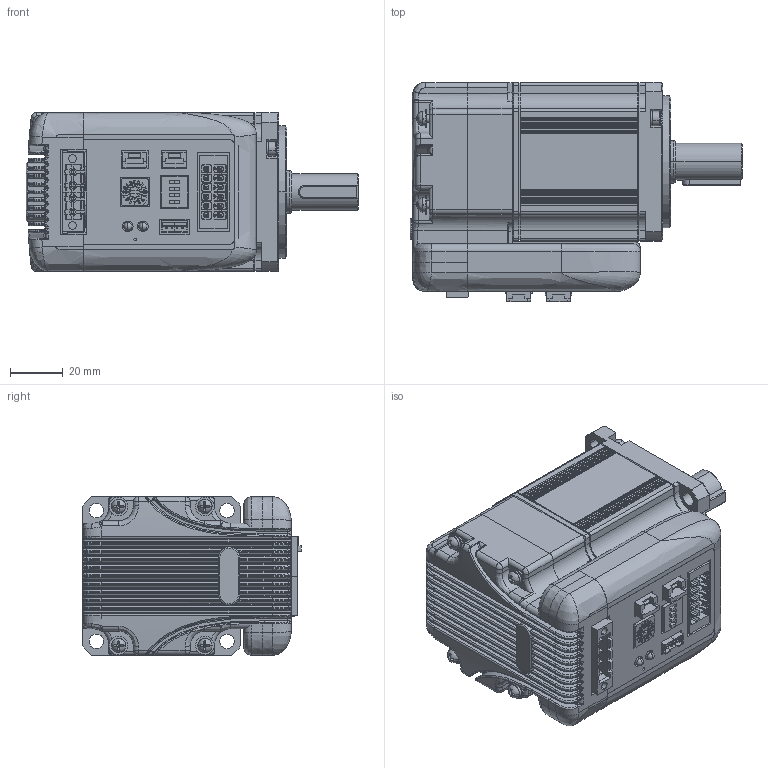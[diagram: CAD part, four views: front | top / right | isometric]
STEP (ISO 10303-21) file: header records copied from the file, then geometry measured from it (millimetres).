
FILE_DESCRIPTION((''),'2;1');
FILE_NAME('ISV2_6020V48C_B_ALL_ASM','2020-12-09T',('sunjun'),(''),'PRO/ENGINEER BY PARAMETRIC TECHNOLOGY CORPORATION, 2008090','PRO/ENGINEER BY PARAMETRIC TECHNOLOGY CORPORATION, 2008090','');
FILE_SCHEMA(('CONFIG_CONTROL_DESIGN'));
Length unit declared in the file: millimetre
Products named in the file (23): MANIFOLD_SOLID_BREP_169; 60_200W_8_ASM_ASM_ASM; PRT0004_7_40; PRT0005_3_11; PRT0004_36; HEADER_2_0_4X_3; XB_3; PB_4P_5; B04B-ZESK-1D_2; PHOENIX______2__6_5; CONNECTOR_5MMCLOSED4PIN_MALE_1; PCB_ASM_12_ASM_ASM_ASM; PRT0003_46; M3X8_GB818_9_1; D3_GB9074_26_11_1; D3_GB9074_24_14_1; M3X8_GB9074_4_ASM_1_ASM_ASM_ASM; ISV2HG_202011123_4; ASM0003_ASM_60_ASM_ASM_ASM; PRT0002; ASM0001_ASM_ASM; ISV2-6020V48C; ISV2_6020V48C_B_ALL_ASM
Assembly tree (26 placements, depth 5):
  ISV2_6020V48C_B_ALL_ASM
    ASM0001_ASM_ASM
      ASM0003_ASM_60_ASM_ASM_ASM
        60_200W_8_ASM_ASM_ASM
          MANIFOLD_SOLID_BREP_169
        PCB_ASM_12_ASM_ASM_ASM
          PRT0004_7_40
          PRT0005_3_11
          PRT0004_36
          HEADER_2_0_4X_3
          XB_3
          PB_4P_5
          B04B-ZESK-1D_2  x2
          PHOENIX______2__6_5
          CONNECTOR_5MMCLOSED4PIN_MALE_1
        PRT0003_46
        M3X8_GB9074_4_ASM_1_ASM_ASM_ASM  x4
          M3X8_GB818_9_1
          D3_GB9074_26_11_1
          D3_GB9074_24_14_1
        ISV2HG_202011123_4
      PRT0002
    ISV2-6020V48C
Bounding box: 125.7 x 82.9 x 60 mm (x, y, z)
Volume: 97591.7 mm3; surface area: 129824.4 mm2
Topology: 26 solids, 58 shells, 3999 faces, 10912 edges, 7030 vertices
Faces by surface type: plane 2250, cylinder 1018, bspline 232, cone 207, extrusion 162, torus 88, sphere 36, revolution 6
Entity records: 140037 total; most frequent: CARTESIAN_POINT 45511, ORIENTED_EDGE 20188, DIRECTION 18219, EDGE_CURVE 10336, VECTOR 6821, VERTEX_POINT 6708, LINE 6659, AXIS2_PLACEMENT_3D 5696
